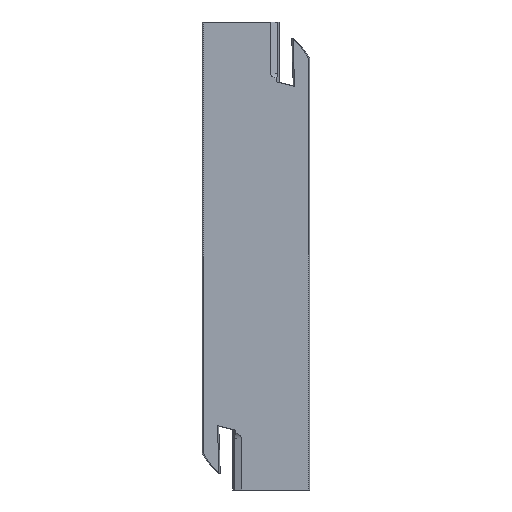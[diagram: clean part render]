
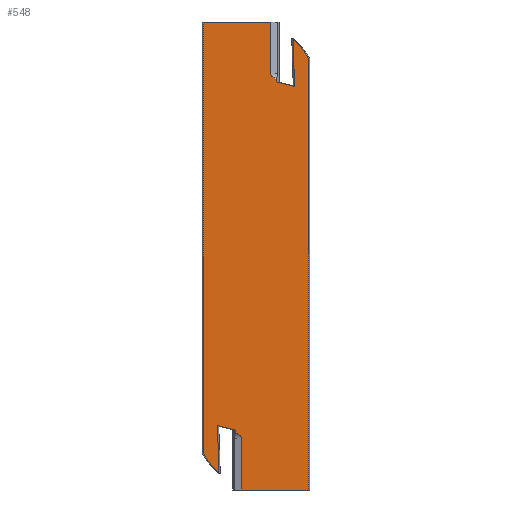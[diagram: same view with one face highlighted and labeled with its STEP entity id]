
A CAD part, left-side view. The second image highlights one B-rep face of the part: STEP entity #548.
In plain terms, the highlighted planar face has unit normal (-1, 0, 0).
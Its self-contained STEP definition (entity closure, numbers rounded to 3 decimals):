
#403=AXIS2_PLACEMENT_3D('Plane Axis2P3D',#400,#401,#402) ;
#186=CARTESIAN_POINT('Vertex',(-2.38,22.058,-94.85)) ;
#189=CARTESIAN_POINT('Line Origine',(-2.38,21.89,-100.393)) ;
#193=CARTESIAN_POINT('Vertex',(-2.38,21.721,-105.937)) ;
#230=CARTESIAN_POINT('Line Origine',(-2.38,22.583,-105.08)) ;
#234=CARTESIAN_POINT('Vertex',(-2.38,23.445,-104.223)) ;
#256=CARTESIAN_POINT('Line Origine',(-2.38,24.404,-102.861)) ;
#260=CARTESIAN_POINT('Vertex',(-2.38,25.363,-101.5)) ;
#361=CARTESIAN_POINT('Vertex',(-2.38,25.362,-55.)) ;
#364=CARTESIAN_POINT('Line Origine',(-2.38,25.362,-27.5)) ;
#368=CARTESIAN_POINT('Vertex',(-2.38,25.362,0.)) ;
#388=CARTESIAN_POINT('Line Origine',(-2.38,25.363,-78.25)) ;
#400=CARTESIAN_POINT('Axis2P3D Location',(-2.38,25.363,-111.)) ;
#406=CARTESIAN_POINT('Control Point',(-2.38,16.397,-97.91)) ;
#407=CARTESIAN_POINT('Control Point',(-2.38,16.397,-97.843)) ;
#408=CARTESIAN_POINT('Control Point',(-2.38,16.405,-97.776)) ;
#409=CARTESIAN_POINT('Control Point',(-2.38,16.421,-97.71)) ;
#410=CARTESIAN_POINT('Control Point',(-2.38,16.502,-97.491)) ;
#411=CARTESIAN_POINT('Control Point',(-2.38,16.651,-97.304)) ;
#412=CARTESIAN_POINT('Control Point',(-2.38,16.776,-97.188)) ;
#413=CARTESIAN_POINT('Control Point',(-2.38,17.031,-96.99)) ;
#414=CARTESIAN_POINT('Control Point',(-2.38,17.312,-96.83)) ;
#415=CARTESIAN_POINT('Control Point',(-2.38,17.452,-96.759)) ;
#416=CARTESIAN_POINT('Control Point',(-2.38,17.595,-96.695)) ;
#417=CARTESIAN_POINT('Control Point',(-2.38,17.74,-96.635)) ;
#418=CARTESIAN_POINT('Vertex',(-2.38,16.397,-97.91)) ;
#420=CARTESIAN_POINT('Vertex',(-2.38,17.74,-96.635)) ;
#423=CARTESIAN_POINT('Line Origine',(-2.38,16.397,-103.955)) ;
#427=CARTESIAN_POINT('Vertex',(-2.38,16.397,-110.)) ;
#430=CARTESIAN_POINT('Line Origine',(-2.38,8.517,-110.)) ;
#434=CARTESIAN_POINT('Vertex',(-2.38,0.638,-110.)) ;
#437=CARTESIAN_POINT('Line Origine',(-2.38,0.638,-82.5)) ;
#441=CARTESIAN_POINT('Vertex',(-2.38,0.638,-55.)) ;
#444=CARTESIAN_POINT('Line Origine',(-2.38,0.638,-31.75)) ;
#448=CARTESIAN_POINT('Vertex',(-2.38,0.638,-8.5)) ;
#451=CARTESIAN_POINT('Line Origine',(-2.38,1.597,-7.139)) ;
#455=CARTESIAN_POINT('Vertex',(-2.38,2.555,-5.777)) ;
#458=CARTESIAN_POINT('Line Origine',(-2.38,3.417,-4.92)) ;
#462=CARTESIAN_POINT('Vertex',(-2.38,4.279,-4.063)) ;
#465=CARTESIAN_POINT('Line Origine',(-2.38,4.11,-9.607)) ;
#469=CARTESIAN_POINT('Vertex',(-2.38,3.942,-15.15)) ;
#472=CARTESIAN_POINT('Line Origine',(-2.38,6.101,-14.614)) ;
#476=CARTESIAN_POINT('Vertex',(-2.38,8.261,-14.077)) ;
#479=CARTESIAN_POINT('Line Origine',(-2.38,8.261,-13.721)) ;
#483=CARTESIAN_POINT('Vertex',(-2.38,8.261,-13.365)) ;
#487=CARTESIAN_POINT('Control Point',(-2.38,9.604,-12.09)) ;
#488=CARTESIAN_POINT('Control Point',(-2.38,9.604,-12.168)) ;
#489=CARTESIAN_POINT('Control Point',(-2.38,9.593,-12.246)) ;
#490=CARTESIAN_POINT('Control Point',(-2.38,9.571,-12.321)) ;
#491=CARTESIAN_POINT('Control Point',(-2.38,9.478,-12.537)) ;
#492=CARTESIAN_POINT('Control Point',(-2.38,9.325,-12.718)) ;
#493=CARTESIAN_POINT('Control Point',(-2.38,9.208,-12.825)) ;
#494=CARTESIAN_POINT('Control Point',(-2.38,8.96,-13.015)) ;
#495=CARTESIAN_POINT('Control Point',(-2.38,8.688,-13.17)) ;
#496=CARTESIAN_POINT('Control Point',(-2.38,8.548,-13.241)) ;
#497=CARTESIAN_POINT('Control Point',(-2.38,8.406,-13.305)) ;
#498=CARTESIAN_POINT('Control Point',(-2.38,8.261,-13.365)) ;
#499=CARTESIAN_POINT('Vertex',(-2.38,9.604,-12.09)) ;
#502=CARTESIAN_POINT('Line Origine',(-2.38,9.604,-6.045)) ;
#506=CARTESIAN_POINT('Vertex',(-2.38,9.604,0.)) ;
#509=CARTESIAN_POINT('Line Origine',(-2.38,17.483,0.)) ;
#514=CARTESIAN_POINT('Line Origine',(-2.38,19.899,-95.386)) ;
#518=CARTESIAN_POINT('Vertex',(-2.38,17.74,-95.923)) ;
#521=CARTESIAN_POINT('Line Origine',(-2.38,17.74,-96.279)) ;
#190=DIRECTION('Vector Direction',(0.,0.03,1.)) ;
#231=DIRECTION('Vector Direction',(0.,-0.709,-0.705)) ;
#257=DIRECTION('Vector Direction',(0.,0.576,0.818)) ;
#365=DIRECTION('Vector Direction',(0.,0.,-1.)) ;
#389=DIRECTION('Vector Direction',(0.,0.,1.)) ;
#401=DIRECTION('Axis2P3D Direction',(-1.,-0.,0.)) ;
#402=DIRECTION('Axis2P3D XDirection',(0.,-1.,0.)) ;
#424=DIRECTION('Vector Direction',(0.,0.,1.)) ;
#431=DIRECTION('Vector Direction',(0.,-1.,0.)) ;
#438=DIRECTION('Vector Direction',(0.,0.,1.)) ;
#445=DIRECTION('Vector Direction',(0.,0.,-1.)) ;
#452=DIRECTION('Vector Direction',(0.,-0.576,-0.818)) ;
#459=DIRECTION('Vector Direction',(0.,0.709,0.705)) ;
#466=DIRECTION('Vector Direction',(0.,-0.03,-1.)) ;
#473=DIRECTION('Vector Direction',(0.,-0.971,-0.241)) ;
#480=DIRECTION('Vector Direction',(0.,0.,1.)) ;
#503=DIRECTION('Vector Direction',(0.,0.,1.)) ;
#510=DIRECTION('Vector Direction',(0.,1.,0.)) ;
#515=DIRECTION('Vector Direction',(0.,0.971,0.241)) ;
#522=DIRECTION('Vector Direction',(0.,0.,-1.)) ;
#191=VECTOR('Line Direction',#190,1.) ;
#232=VECTOR('Line Direction',#231,1.) ;
#258=VECTOR('Line Direction',#257,1.) ;
#366=VECTOR('Line Direction',#365,1.) ;
#390=VECTOR('Line Direction',#389,1.) ;
#425=VECTOR('Line Direction',#424,1.) ;
#432=VECTOR('Line Direction',#431,1.) ;
#439=VECTOR('Line Direction',#438,1.) ;
#446=VECTOR('Line Direction',#445,1.) ;
#453=VECTOR('Line Direction',#452,1.) ;
#460=VECTOR('Line Direction',#459,1.) ;
#467=VECTOR('Line Direction',#466,1.) ;
#474=VECTOR('Line Direction',#473,1.) ;
#481=VECTOR('Line Direction',#480,1.) ;
#504=VECTOR('Line Direction',#503,1.) ;
#511=VECTOR('Line Direction',#510,1.) ;
#516=VECTOR('Line Direction',#515,1.) ;
#523=VECTOR('Line Direction',#522,1.) ;
#527=ORIENTED_EDGE('',*,*,#422,.F.) ;
#528=ORIENTED_EDGE('',*,*,#429,.F.) ;
#529=ORIENTED_EDGE('',*,*,#436,.F.) ;
#530=ORIENTED_EDGE('',*,*,#443,.T.) ;
#531=ORIENTED_EDGE('',*,*,#450,.F.) ;
#532=ORIENTED_EDGE('',*,*,#457,.F.) ;
#533=ORIENTED_EDGE('',*,*,#464,.T.) ;
#534=ORIENTED_EDGE('',*,*,#471,.T.) ;
#535=ORIENTED_EDGE('',*,*,#478,.F.) ;
#536=ORIENTED_EDGE('',*,*,#485,.T.) ;
#537=ORIENTED_EDGE('',*,*,#501,.F.) ;
#538=ORIENTED_EDGE('',*,*,#508,.F.) ;
#539=ORIENTED_EDGE('',*,*,#513,.F.) ;
#540=ORIENTED_EDGE('',*,*,#370,.T.) ;
#541=ORIENTED_EDGE('',*,*,#392,.F.) ;
#542=ORIENTED_EDGE('',*,*,#262,.F.) ;
#543=ORIENTED_EDGE('',*,*,#236,.T.) ;
#544=ORIENTED_EDGE('',*,*,#195,.T.) ;
#545=ORIENTED_EDGE('',*,*,#520,.F.) ;
#546=ORIENTED_EDGE('',*,*,#525,.T.) ;
#548=ADVANCED_FACE('NOCUT',(#547),#404,.T.) ;
#405=B_SPLINE_CURVE_WITH_KNOTS('',5,(#406,#407,#408,#409,#410,#411,#412,#413,#414,#415,#416,#417),.UNSPECIFIED.,.F.,.U.,(6,3,3,6),(0.,0.475,1.646,2.754),.UNSPECIFIED.) ;
#486=B_SPLINE_CURVE_WITH_KNOTS('',5,(#487,#488,#489,#490,#491,#492,#493,#494,#495,#496,#497,#498),.UNSPECIFIED.,.F.,.U.,(6,3,3,6),(0.,0.55,1.649,2.757),.UNSPECIFIED.) ;
#195=EDGE_CURVE('',#194,#187,#192,.T.) ;
#236=EDGE_CURVE('',#235,#194,#233,.T.) ;
#262=EDGE_CURVE('',#235,#261,#259,.T.) ;
#370=EDGE_CURVE('',#369,#362,#367,.T.) ;
#392=EDGE_CURVE('',#261,#362,#391,.T.) ;
#422=EDGE_CURVE('',#419,#421,#405,.T.) ;
#429=EDGE_CURVE('',#428,#419,#426,.T.) ;
#436=EDGE_CURVE('',#435,#428,#433,.F.) ;
#443=EDGE_CURVE('',#435,#442,#440,.T.) ;
#450=EDGE_CURVE('',#449,#442,#447,.T.) ;
#457=EDGE_CURVE('',#456,#449,#454,.T.) ;
#464=EDGE_CURVE('',#456,#463,#461,.T.) ;
#471=EDGE_CURVE('',#463,#470,#468,.T.) ;
#478=EDGE_CURVE('',#477,#470,#475,.T.) ;
#485=EDGE_CURVE('',#477,#484,#482,.T.) ;
#501=EDGE_CURVE('',#500,#484,#486,.T.) ;
#508=EDGE_CURVE('',#507,#500,#505,.F.) ;
#513=EDGE_CURVE('',#369,#507,#512,.F.) ;
#520=EDGE_CURVE('',#519,#187,#517,.T.) ;
#525=EDGE_CURVE('',#519,#421,#524,.T.) ;
#526=EDGE_LOOP('',(#527,#528,#529,#530,#531,#532,#533,#534,#535,#536,#537,#538,#539,#540,#541,#542,#543,#544,#545,#546)) ;
#547=FACE_OUTER_BOUND('',#526,.T.) ;
#192=LINE('Line',#189,#191) ;
#233=LINE('Line',#230,#232) ;
#259=LINE('Line',#256,#258) ;
#367=LINE('Line',#364,#366) ;
#391=LINE('Line',#388,#390) ;
#426=LINE('Line',#423,#425) ;
#433=LINE('Line',#430,#432) ;
#440=LINE('Line',#437,#439) ;
#447=LINE('Line',#444,#446) ;
#454=LINE('Line',#451,#453) ;
#461=LINE('Line',#458,#460) ;
#468=LINE('Line',#465,#467) ;
#475=LINE('Line',#472,#474) ;
#482=LINE('Line',#479,#481) ;
#505=LINE('Line',#502,#504) ;
#512=LINE('Line',#509,#511) ;
#517=LINE('Line',#514,#516) ;
#524=LINE('Line',#521,#523) ;
#404=PLANE('',#403) ;
#187=VERTEX_POINT('',#186) ;
#194=VERTEX_POINT('',#193) ;
#235=VERTEX_POINT('',#234) ;
#261=VERTEX_POINT('',#260) ;
#362=VERTEX_POINT('',#361) ;
#369=VERTEX_POINT('',#368) ;
#419=VERTEX_POINT('',#418) ;
#421=VERTEX_POINT('',#420) ;
#428=VERTEX_POINT('',#427) ;
#435=VERTEX_POINT('',#434) ;
#442=VERTEX_POINT('',#441) ;
#449=VERTEX_POINT('',#448) ;
#456=VERTEX_POINT('',#455) ;
#463=VERTEX_POINT('',#462) ;
#470=VERTEX_POINT('',#469) ;
#477=VERTEX_POINT('',#476) ;
#484=VERTEX_POINT('',#483) ;
#500=VERTEX_POINT('',#499) ;
#507=VERTEX_POINT('',#506) ;
#519=VERTEX_POINT('',#518) ;
